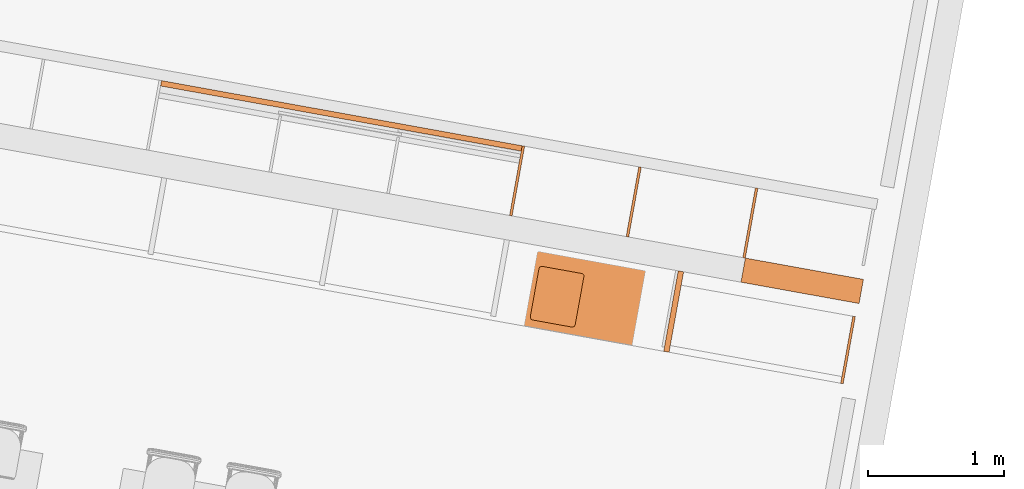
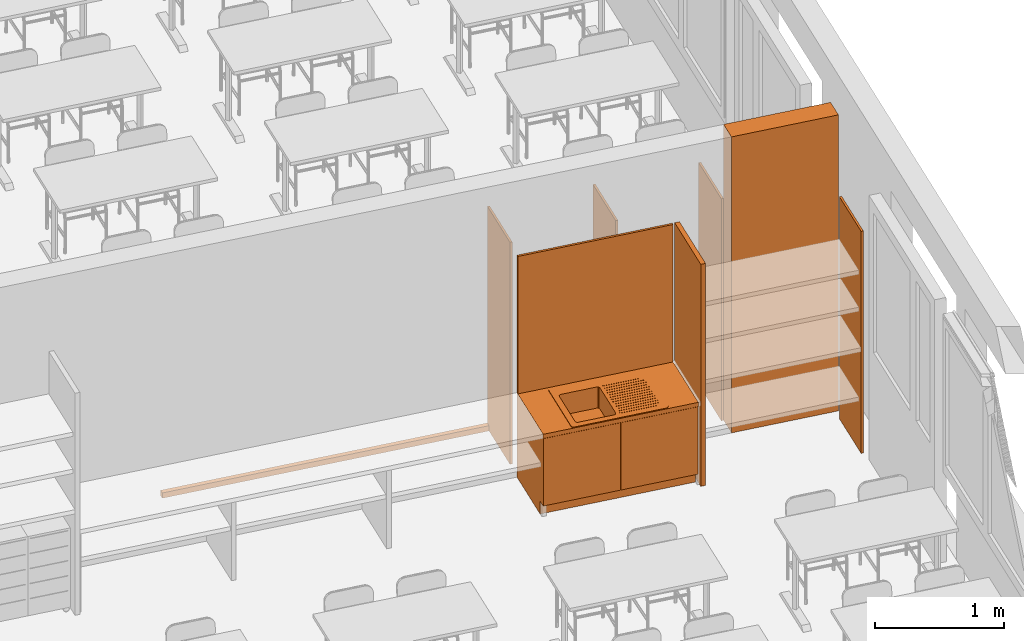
# One storey, part 27 of 79: 8 proxies.
"""IFC2X3 building model written with IfcOpenShell, lengths in metres."""

from ifc_helpers import new_model, entity, si_unit, converted_unit, derived_unit, money_unit, direction, frame, origin_with_axes, place, context, subcontext, project, spatial, polyline, outline, extrude, open_shell, faceted_brep, surface_model, source, transform, mapped, material, type_object, element, save


model = new_model("IFC2X3")

# Units and contexts
model_context = context("Model", 3, precision=1e-05, world=origin_with_axes(), true_north=direction((0.0, 1.0)))
body_context = subcontext(model_context, "Body", "Model", "MODEL_VIEW")
ifc_project = project(units=[si_unit("LENGTHUNIT", "METRE"), si_unit("AREAUNIT", "SQUARE_METRE"), si_unit("VOLUMEUNIT", "CUBIC_METRE"), converted_unit("PLANEANGLEUNIT", "DEGREE", entity("IfcPlaneAngleMeasure", 0.0174532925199), si_unit("PLANEANGLEUNIT", "RADIAN"), dimensions=[0, 0, 0, 0, 0, 0, 0]), money_unit("CHF"), converted_unit("TIMEUNIT", "Year", entity("IfcTimeMeasure", 31556926.0), si_unit("TIMEUNIT", "SECOND"), dimensions=[0, 0, 1, 0, 0, 0, 0]), si_unit("MASSUNIT", "GRAM", prefix="KILO"), si_unit("THERMODYNAMICTEMPERATUREUNIT", "DEGREE_CELSIUS"), si_unit("LUMINOUSINTENSITYUNIT", "LUMEN"), si_unit("ENERGYUNIT", "JOULE", prefix="MEGA"), derived_unit("THERMALCONDUCTANCEUNIT", [(si_unit("POWERUNIT", "WATT"), 1), (si_unit("LENGTHUNIT", "METRE"), -1), (si_unit("THERMODYNAMICTEMPERATUREUNIT", "KELVIN"), -1)]), derived_unit("SPECIFICHEATCAPACITYUNIT", [(si_unit("ENERGYUNIT", "JOULE"), 1), (si_unit("MASSUNIT", "GRAM", prefix="KILO"), -1), (si_unit("THERMODYNAMICTEMPERATUREUNIT", "KELVIN"), -1)]), derived_unit("MASSDENSITYUNIT", [(si_unit("MASSUNIT", "GRAM", prefix="KILO"), 1), (si_unit("VOLUMEUNIT", "CUBIC_METRE"), -1)])], contexts=[model_context])

# Site, building, storey
site_placement = place(None, frame((0.0, 0.0, 0.0), z_axis=(0.0, 0.0, 1.0), x_axis=(-0.177771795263, -0.984071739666, 0.0)))
site = spatial("IfcSite", under=ifc_project, at=site_placement, Name="Site", CompositionType="ELEMENT")
building_placement = place(site_placement, origin_with_axes())
building = spatial("IfcBuilding", under=site, at=building_placement, Name="Bâtiment", CompositionType="ELEMENT")
storey_placement = place(building_placement, origin_with_axes())
storey = spatial("IfcBuildingStorey", under=building, at=storey_placement, Name="RDC", CompositionType="ELEMENT", Elevation=0.0)

# Proxies
ifc_material_1 = material(Name="_panneau mélaminé")
building_element_proxy_type_1 = type_object("IfcBuildingElementProxyType", Name="_panneau mélaminé 40", PredefinedType="NOTDEFINED")
proxy_1_placement = place(storey_placement, frame((156.299841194, -149.826151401, 0.0), z_axis=(0.0, 0.0, 1.0), x_axis=(-1.0, 0.0, 0.0)))
element("IfcBuildingElementProxy", 1, at=proxy_1_placement, inside=storey, type_object=building_element_proxy_type_1, material=ifc_material_1, Name="cloison-fd-classe D", context=body_context, shape_type="SweptSolid", body=[
    extrude(outline(polyline([(0.0, -0.04), (0.600000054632, -0.04), (0.600000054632, 0.0), (0.0, 0.0), (0.0, -0.04)])), origin_with_axes(), (0.0, 0.0, 1.0), 2.1),
])
building_element_proxy_type_2 = type_object("IfcBuildingElementProxyType", Name="_panneau mélaminé 19", PredefinedType="NOTDEFINED")
proxy_2_placement = place(storey_placement, frame((155.519841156, -149.367651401, 0.0), z_axis=(0.0, 0.0, 1.0), x_axis=(-1.0, 0.0, 0.0)))
element("IfcBuildingElementProxy", 2, at=proxy_2_placement, inside=storey, type_object=building_element_proxy_type_2, material=ifc_material_1, Name="cloison pl-classe", context=body_context, shape_type="SweptSolid", body=[
    extrude(outline(polyline([(0.0, -0.0095), (0.520000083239, -0.0095), (0.520000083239, 0.0095), (0.0, 0.0095), (0.0, -0.0095)])), origin_with_axes(), (0.0, 0.0, 1.0), 2.1),
])
proxy_3_placement = place(storey_placement, frame((156.299841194, -148.506151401, 0.0), z_axis=(0.0, 0.0, 1.0), x_axis=(-1.0, 0.0, 0.0)))
element("IfcBuildingElementProxy", 3, at=proxy_3_placement, inside=storey, type_object=building_element_proxy_type_2, material=ifc_material_1, Name="cloison-fd-classe D", context=body_context, shape_type="SweptSolid", body=[
    extrude(outline(polyline([(0.0, -0.019), (0.500000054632, -0.019), (0.500000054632, 0.0), (0.0, 0.0), (0.0, -0.019)])), origin_with_axes(), (0.0, 0.0, 1.0), 2.1),
])
proxy_4_placement = place(storey_placement, frame((155.519841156, -150.237651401, 0.0), z_axis=(0.0, 0.0, 1.0), x_axis=(-1.0, 0.0, 0.0)))
element("IfcBuildingElementProxy", 4, at=proxy_4_placement, inside=storey, type_object=building_element_proxy_type_2, material=ifc_material_1, Name="cloison pl-classe", context=body_context, shape_type="SweptSolid", body=[
    extrude(outline(polyline([(0.0, -0.0095), (0.520000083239, -0.0095), (0.520000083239, 0.0095), (0.0, 0.0095), (0.0, -0.0095)])), origin_with_axes(), (0.0, 0.0, 1.0), 2.1),
])
proxy_5_placement = place(storey_placement, frame((155.51984114, -151.107651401, 0.0), z_axis=(0.0, 0.0, 1.0), x_axis=(-1.0, 0.0, 0.0)))
element("IfcBuildingElementProxy", 5, at=proxy_5_placement, inside=storey, type_object=building_element_proxy_type_2, material=ifc_material_1, Name="cloison pl-classe", context=body_context, shape_type="SweptSolid", body=[
    extrude(outline(polyline([(0.0, -0.0095), (0.520000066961, -0.0095), (0.520000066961, 0.0095), (0.0, 0.0095), (0.0, -0.0095)])), origin_with_axes(), (0.0, 0.0, 1.0), 2.1),
])
ifc_material_2 = material(Name="_BA banché RAL9007")
building_element_proxy_type_3 = type_object("IfcBuildingElementProxyType", Name="_M ext 18 +10 gris 280", PredefinedType="NOTDEFINED")
proxy_6_placement = place(storey_placement, frame((155.69984114, -149.358151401, 0.0), z_axis=(0.0, 0.0, 1.0), x_axis=(0.0, 1.0, 0.0)))
element("IfcBuildingElementProxy", 6, at=proxy_6_placement, inside=storey, type_object=building_element_proxy_type_3, material=ifc_material_2, Name="M retour_isol", context=body_context, shape_type="SweptSolid", body=[
    extrude(outline(polyline([(0.0, 0.0), (0.881001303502, 0.0), (0.881001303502, 0.18), (0.0, 0.18), (0.0, 0.0)])), origin_with_axes(), (0.0, 0.0, 1.0), 2.8),
])
ifc_material_3 = material(Name="Matériau de construction IFC")
building_element_proxy_type_4 = type_object("IfcBuildingElementProxyType", Name="Elément simple avec deux portes 21", PredefinedType="NOTDEFINED")
shared_shape = source(origin_with_axes(), body_context, "Body", "SurfaceModel", [
    surface_model("IfcShellBasedSurfaceModel", [(0.5, 0.600000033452, 0.733), (0.496505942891, 0.600000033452, 0.733460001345), (0.496505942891, 0.620000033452, 0.733460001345), (0.5, 0.620000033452, 0.733), (0.49325, 0.600000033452, 0.734808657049), (0.49325, 0.620000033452, 0.734808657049), (0.503494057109, 0.600000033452, 0.733460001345), (0.503494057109, 0.620000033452, 0.733460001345), (0.490454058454, 0.600000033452, 0.736954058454), (0.490454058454, 0.620000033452, 0.736954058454), (0.50675, 0.600000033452, 0.734808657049), (0.50675, 0.620000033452, 0.734808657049), (0.488308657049, 0.600000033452, 0.73975), (0.488308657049, 0.620000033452, 0.73975), (0.509545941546, 0.600000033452, 0.736954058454), (0.509545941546, 0.620000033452, 0.736954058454), (0.486960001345, 0.600000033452, 0.743005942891), (0.486960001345, 0.620000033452, 0.743005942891), (0.511691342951, 0.600000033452, 0.73975), (0.511691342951, 0.620000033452, 0.73975), (0.4865, 0.600000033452, 0.7465), (0.4865, 0.620000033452, 0.7465), (0.513039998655, 0.600000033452, 0.743005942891), (0.513039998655, 0.620000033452, 0.743005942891), (0.486960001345, 0.600000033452, 0.749994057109), (0.486960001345, 0.620000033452, 0.749994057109), (0.5135, 0.600000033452, 0.7465), (0.5135, 0.620000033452, 0.7465), (0.488308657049, 0.600000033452, 0.75325), (0.488308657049, 0.620000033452, 0.75325), (0.513039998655, 0.600000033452, 0.749994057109), (0.513039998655, 0.620000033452, 0.749994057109), (0.490454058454, 0.600000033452, 0.756045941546), (0.490454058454, 0.620000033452, 0.756045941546), (0.511691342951, 0.600000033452, 0.75325), (0.511691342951, 0.620000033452, 0.75325), (0.49325, 0.600000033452, 0.758191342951), (0.49325, 0.620000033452, 0.758191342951), (0.509545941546, 0.600000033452, 0.756045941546), (0.509545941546, 0.620000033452, 0.756045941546), (0.496505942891, 0.600000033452, 0.759539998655), (0.496505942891, 0.620000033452, 0.759539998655), (0.50675, 0.600000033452, 0.758191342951), (0.50675, 0.620000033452, 0.758191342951), (0.5, 0.600000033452, 0.76), (0.5, 0.620000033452, 0.76), (0.503494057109, 0.600000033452, 0.759539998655), (0.503494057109, 0.620000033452, 0.759539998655)], [open_shell([[[0, 1, 2, 3]], [[1, 4, 5, 2]], [[6, 0, 3, 7]], [[4, 8, 9, 5]], [[10, 6, 7, 11]], [[8, 12, 13, 9]], [[14, 10, 11, 15]], [[12, 16, 17, 13]], [[18, 14, 15, 19]], [[16, 20, 21, 17]], [[22, 18, 19, 23]], [[20, 24, 25, 21]], [[26, 22, 23, 27]], [[24, 28, 29, 25]], [[30, 26, 27, 31]], [[28, 32, 33, 29]], [[34, 30, 31, 35]], [[32, 36, 37, 33]], [[38, 34, 35, 39]], [[36, 40, 41, 37]], [[42, 38, 39, 43]], [[40, 44, 45, 41]], [[46, 42, 43, 47]], [[44, 46, 47, 45]]])]),
    surface_model("IfcShellBasedSurfaceModel", [(0.7, 0.600000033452, 0.733), (0.696505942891, 0.600000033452, 0.733460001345), (0.696505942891, 0.620000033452, 0.733460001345), (0.7, 0.620000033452, 0.733), (0.69325, 0.600000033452, 0.734808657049), (0.69325, 0.620000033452, 0.734808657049), (0.703494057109, 0.600000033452, 0.733460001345), (0.703494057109, 0.620000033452, 0.733460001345), (0.690454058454, 0.600000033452, 0.736954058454), (0.690454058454, 0.620000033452, 0.736954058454), (0.70675, 0.600000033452, 0.734808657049), (0.70675, 0.620000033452, 0.734808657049), (0.688308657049, 0.600000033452, 0.73975), (0.688308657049, 0.620000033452, 0.73975), (0.709545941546, 0.600000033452, 0.736954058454), (0.709545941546, 0.620000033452, 0.736954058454), (0.686960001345, 0.600000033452, 0.743005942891), (0.686960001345, 0.620000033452, 0.743005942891), (0.711691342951, 0.600000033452, 0.73975), (0.711691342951, 0.620000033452, 0.73975), (0.6865, 0.600000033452, 0.7465), (0.6865, 0.620000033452, 0.7465), (0.713039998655, 0.600000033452, 0.743005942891), (0.713039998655, 0.620000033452, 0.743005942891), (0.686960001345, 0.600000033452, 0.749994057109), (0.686960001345, 0.620000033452, 0.749994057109), (0.7135, 0.600000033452, 0.7465), (0.7135, 0.620000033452, 0.7465), (0.688308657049, 0.600000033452, 0.75325), (0.688308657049, 0.620000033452, 0.75325), (0.713039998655, 0.600000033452, 0.749994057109), (0.713039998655, 0.620000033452, 0.749994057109), (0.690454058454, 0.600000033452, 0.756045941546), (0.690454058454, 0.620000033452, 0.756045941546), (0.711691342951, 0.600000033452, 0.75325), (0.711691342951, 0.620000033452, 0.75325), (0.69325, 0.600000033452, 0.758191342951), (0.69325, 0.620000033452, 0.758191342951), (0.709545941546, 0.600000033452, 0.756045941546), (0.709545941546, 0.620000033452, 0.756045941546), (0.696505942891, 0.600000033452, 0.759539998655), (0.696505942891, 0.620000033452, 0.759539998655), (0.70675, 0.600000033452, 0.758191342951), (0.70675, 0.620000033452, 0.758191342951), (0.7, 0.600000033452, 0.76), (0.7, 0.620000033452, 0.76), (0.703494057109, 0.600000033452, 0.759539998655), (0.703494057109, 0.620000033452, 0.759539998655)], [open_shell([[[0, 1, 2, 3]], [[1, 4, 5, 2]], [[6, 0, 3, 7]], [[4, 8, 9, 5]], [[10, 6, 7, 11]], [[8, 12, 13, 9]], [[14, 10, 11, 15]], [[12, 16, 17, 13]], [[18, 14, 15, 19]], [[16, 20, 21, 17]], [[22, 18, 19, 23]], [[20, 24, 25, 21]], [[26, 22, 23, 27]], [[24, 28, 29, 25]], [[30, 26, 27, 31]], [[28, 32, 33, 29]], [[34, 30, 31, 35]], [[32, 36, 37, 33]], [[38, 34, 35, 39]], [[36, 40, 41, 37]], [[42, 38, 39, 43]], [[40, 44, 45, 41]], [[46, 42, 43, 47]], [[44, 46, 47, 45]]])]),
    surface_model("IfcShellBasedSurfaceModel", [(0.6, 0.600000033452, 0.579), (0.594564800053, 0.600000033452, 0.579715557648), (0.594564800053, 0.620000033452, 0.579715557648), (0.6, 0.620000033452, 0.579), (0.5895, 0.600000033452, 0.581813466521), (0.5895, 0.620000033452, 0.581813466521), (0.605435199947, 0.600000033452, 0.579715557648), (0.605435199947, 0.620000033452, 0.579715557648), (0.585150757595, 0.600000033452, 0.585150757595), (0.585150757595, 0.620000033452, 0.585150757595), (0.6105, 0.600000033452, 0.581813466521), (0.6105, 0.620000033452, 0.581813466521), (0.581813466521, 0.600000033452, 0.5895), (0.581813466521, 0.620000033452, 0.5895), (0.614849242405, 0.600000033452, 0.585150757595), (0.614849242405, 0.620000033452, 0.585150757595), (0.579715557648, 0.600000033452, 0.594564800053), (0.579715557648, 0.620000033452, 0.594564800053), (0.618186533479, 0.600000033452, 0.5895), (0.618186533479, 0.620000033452, 0.5895), (0.579, 0.600000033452, 0.6), (0.579, 0.620000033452, 0.6), (0.620284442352, 0.600000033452, 0.594564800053), (0.620284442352, 0.620000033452, 0.594564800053), (0.579715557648, 0.600000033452, 0.605435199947), (0.579715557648, 0.620000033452, 0.605435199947), (0.621, 0.600000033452, 0.6), (0.621, 0.620000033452, 0.6), (0.581813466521, 0.600000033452, 0.6105), (0.581813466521, 0.620000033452, 0.6105), (0.620284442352, 0.600000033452, 0.605435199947), (0.620284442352, 0.620000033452, 0.605435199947), (0.585150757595, 0.600000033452, 0.614849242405), (0.585150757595, 0.620000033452, 0.614849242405), (0.618186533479, 0.600000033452, 0.6105), (0.618186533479, 0.620000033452, 0.6105), (0.5895, 0.600000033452, 0.618186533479), (0.5895, 0.620000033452, 0.618186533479), (0.614849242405, 0.600000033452, 0.614849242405), (0.614849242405, 0.620000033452, 0.614849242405), (0.594564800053, 0.600000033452, 0.620284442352), (0.594564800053, 0.620000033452, 0.620284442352), (0.6105, 0.600000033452, 0.618186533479), (0.6105, 0.620000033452, 0.618186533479), (0.6, 0.600000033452, 0.621), (0.6, 0.620000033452, 0.621), (0.605435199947, 0.600000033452, 0.620284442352), (0.605435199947, 0.620000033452, 0.620284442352)], [open_shell([[[0, 1, 2, 3]], [[1, 4, 5, 2]], [[6, 0, 3, 7]], [[4, 8, 9, 5]], [[10, 6, 7, 11]], [[8, 12, 13, 9]], [[14, 10, 11, 15]], [[12, 16, 17, 13]], [[18, 14, 15, 19]], [[16, 20, 21, 17]], [[22, 18, 19, 23]], [[20, 24, 25, 21]], [[26, 22, 23, 27]], [[24, 28, 29, 25]], [[30, 26, 27, 31]], [[28, 32, 33, 29]], [[34, 30, 31, 35]], [[32, 36, 37, 33]], [[38, 34, 35, 39]], [[36, 40, 41, 37]], [[42, 38, 39, 43]], [[40, 44, 45, 41]], [[46, 42, 43, 47]], [[44, 46, 47, 45]]])]),
    faceted_brep([(0.0, 0.07, 0.0), (1.278, 0.07, 0.0), (1.278, 0.07, 0.12), (0.0, 0.07, 0.12), (0.0, 0.600000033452, 0.0), (1.278, 0.600000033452, 0.0), (1.278, 0.600000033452, 0.12), (0.0, 0.600000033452, 0.12)], [[[0, 1, 2, 3]], [[0, 4, 5, 1]], [[1, 5, 6, 2]], [[3, 2, 6, 7]], [[4, 0, 3, 7]], [[5, 4, 7, 6]]]),
    faceted_brep([(0.0, 0.02, 0.12), (0.02, 0.02, 0.12), (0.02, 0.02, 0.14), (0.0, 0.02, 0.14), (0.0, 0.600000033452, 0.12), (0.02, 0.600000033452, 0.12), (1.258, 0.600000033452, 0.12), (1.278, 0.600000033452, 0.12), (1.278, 0.02, 0.12), (1.258, 0.02, 0.12), (1.258, 0.02, 0.14), (1.278, 0.02, 0.14), (1.278, 0.600000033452, 0.14), (1.258, 0.600000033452, 0.14), (0.02, 0.600000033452, 0.14), (0.0, 0.600000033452, 0.14)], [[[0, 1, 2, 3]], [[0, 4, 5, 6, 7, 8, 9, 1]], [[1, 9, 10, 2]], [[3, 2, 10, 11, 12, 13, 14, 15]], [[4, 0, 3, 15]], [[5, 4, 15, 14]], [[6, 5, 14, 13]], [[7, 6, 13, 12]], [[8, 7, 12, 11]], [[9, 8, 11, 10]]]),
    faceted_brep([(0.0, 0.02, 0.14), (0.02, 0.02, 0.14), (0.02, 0.02, 0.76), (0.0, 0.02, 0.76), (0.0, 0.600000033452, 0.14), (1.278, 0.600000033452, 0.14), (1.278, 0.02, 0.14), (1.258, 0.02, 0.14), (1.258, 0.580000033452, 0.14), (0.02, 0.580000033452, 0.14), (0.02, 0.580000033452, 0.76), (1.258, 0.580000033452, 0.76), (1.258, 0.02, 0.76), (1.278, 0.02, 0.76), (1.278, 0.600000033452, 0.76), (0.0, 0.600000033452, 0.76)], [[[0, 1, 2, 3]], [[0, 4, 5, 6, 7, 8, 9, 1]], [[1, 9, 10, 2]], [[3, 2, 10, 11, 12, 13, 14, 15]], [[4, 0, 3, 15]], [[5, 4, 15, 14]], [[6, 5, 14, 13]], [[7, 6, 13, 12]], [[8, 7, 12, 11]], [[9, 8, 11, 10]]]),
    faceted_brep([(1.258, 0.02, 0.41), (1.258, 0.580000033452, 0.41), (1.258, 0.580000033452, 0.43), (1.258, 0.02, 0.43), (0.02, 0.02, 0.41), (0.02, 0.580000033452, 0.41), (0.02, 0.580000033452, 0.43), (0.02, 0.02, 0.43)], [[[0, 1, 2, 3]], [[0, 4, 5, 1]], [[1, 5, 6, 2]], [[3, 2, 6, 7]], [[4, 0, 3, 7]], [[5, 4, 7, 6]]]),
    surface_model("IfcShellBasedSurfaceModel", [(0.309, 0.0550000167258, 0.605), (0.604, 0.0550000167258, 0.605), (0.604, 0.0550000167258, 0.8), (0.309, 0.0550000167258, 0.8), (0.299, 0.0576795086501, 0.605), (0.291679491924, 0.0650000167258, 0.605), (0.289, 0.0750000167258, 0.605), (0.289, 0.435000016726, 0.605), (0.291679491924, 0.445000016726, 0.605), (0.299, 0.452320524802, 0.605), (0.309, 0.455000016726, 0.605), (0.604, 0.455000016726, 0.605), (0.614, 0.452320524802, 0.605), (0.621320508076, 0.445000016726, 0.605), (0.624, 0.435000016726, 0.605), (0.624, 0.0750000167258, 0.605), (0.618142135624, 0.0608578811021, 0.605), (0.618142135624, 0.0608578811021, 0.8), (0.299, 0.0576795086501, 0.8), (0.291679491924, 0.0650000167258, 0.8), (0.289, 0.0750000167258, 0.8), (0.289, 0.435000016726, 0.8), (0.291679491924, 0.445000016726, 0.8), (0.299, 0.452320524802, 0.8), (0.309, 0.455000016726, 0.8), (0.604, 0.455000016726, 0.8), (0.614, 0.452320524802, 0.8), (0.621320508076, 0.445000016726, 0.8), (0.624, 0.435000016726, 0.8), (0.624, 0.0750000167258, 0.8)], [open_shell([[[0, 1, 2, 3]], [[0, 4, 5, 6, 7, 8, 9, 10, 11, 12, 13, 14, 15, 16, 1]], [[1, 16, 17, 2]], [[4, 0, 3, 18]], [[5, 4, 18, 19]], [[6, 5, 19, 20]], [[7, 6, 20, 21]], [[8, 7, 21, 22]], [[9, 8, 22, 23]], [[10, 9, 23, 24]], [[11, 10, 24, 25]], [[12, 11, 25, 26]], [[13, 12, 26, 27]], [[14, 13, 27, 28]], [[15, 14, 28, 29]], [[16, 15, 29, 17]]])]),
    faceted_brep([(0.259, 0.00500001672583, 0.8), (1.019, 0.00500001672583, 0.8), (1.019, 0.00500001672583, 0.805), (0.259, 0.00500001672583, 0.805), (0.249, 0.00767950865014, 0.8), (0.241679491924, 0.0150000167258, 0.8), (0.239, 0.0250000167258, 0.8), (0.239, 0.535000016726, 0.8), (0.241679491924, 0.545000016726, 0.8), (0.249, 0.552320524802, 0.8), (0.259, 0.555000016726, 0.8), (1.019, 0.555000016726, 0.8), (1.029, 0.552320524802, 0.8), (1.03632050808, 0.545000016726, 0.8), (1.039, 0.535000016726, 0.8), (1.039, 0.0250000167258, 0.8), (1.03314213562, 0.0108578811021, 0.8), (0.309, 0.0550000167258, 0.8), (0.604, 0.0550000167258, 0.8), (0.618142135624, 0.0608578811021, 0.8), (0.624, 0.0750000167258, 0.8), (0.624, 0.435000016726, 0.8), (0.621320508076, 0.445000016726, 0.8), (0.614, 0.452320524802, 0.8), (0.604, 0.455000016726, 0.8), (0.309, 0.455000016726, 0.8), (0.299, 0.452320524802, 0.8), (0.291679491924, 0.445000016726, 0.8), (0.289, 0.435000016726, 0.8), (0.289, 0.0750000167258, 0.8), (0.291679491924, 0.0650000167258, 0.8), (0.299, 0.0576795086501, 0.8), (1.03314213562, 0.0108578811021, 0.805), (1.039, 0.0250000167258, 0.805), (1.039, 0.535000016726, 0.805), (1.03632050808, 0.545000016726, 0.805), (1.029, 0.552320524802, 0.805), (1.019, 0.555000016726, 0.805), (0.259, 0.555000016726, 0.805), (0.249, 0.552320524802, 0.805), (0.241679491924, 0.545000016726, 0.805), (0.239, 0.535000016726, 0.805), (0.239, 0.0250000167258, 0.805), (0.241679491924, 0.0150000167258, 0.805), (0.249, 0.00767950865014, 0.805), (0.309, 0.0550000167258, 0.805), (0.299, 0.0576795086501, 0.805), (0.291679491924, 0.0650000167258, 0.805), (0.289, 0.0750000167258, 0.805), (0.289, 0.435000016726, 0.805), (0.291679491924, 0.445000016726, 0.805), (0.299, 0.452320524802, 0.805), (0.309, 0.455000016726, 0.805), (0.604, 0.455000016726, 0.805), (0.614, 0.452320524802, 0.805), (0.621320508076, 0.445000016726, 0.805), (0.624, 0.435000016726, 0.805), (0.624, 0.0750000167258, 0.805), (0.618142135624, 0.0608578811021, 0.805), (0.604, 0.0550000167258, 0.805)], [[[0, 1, 2, 3]], [[0, 4, 5, 6, 7, 8, 9, 10, 11, 12, 13, 14, 15, 16, 1], [17, 18, 19, 20, 21, 22, 23, 24, 25, 26, 27, 28, 29, 30, 31]], [[1, 16, 32, 2]], [[3, 2, 32, 33, 34, 35, 36, 37, 38, 39, 40, 41, 42, 43, 44], [45, 46, 47, 48, 49, 50, 51, 52, 53, 54, 55, 56, 57, 58, 59]], [[4, 0, 3, 44]], [[5, 4, 44, 43]], [[6, 5, 43, 42]], [[7, 6, 42, 41]], [[8, 7, 41, 40]], [[9, 8, 40, 39]], [[10, 9, 39, 38]], [[11, 10, 38, 37]], [[12, 11, 37, 36]], [[13, 12, 36, 35]], [[14, 13, 35, 34]], [[15, 14, 34, 33]], [[16, 15, 33, 32]], [[18, 17, 45, 59]], [[19, 18, 59, 58]], [[20, 19, 58, 57]], [[21, 20, 57, 56]], [[22, 21, 56, 55]], [[23, 22, 55, 54]], [[24, 23, 54, 53]], [[25, 24, 53, 52]], [[26, 25, 52, 51]], [[27, 26, 51, 50]], [[28, 27, 50, 49]], [[29, 28, 49, 48]], [[30, 29, 48, 47]], [[31, 30, 47, 46]], [[17, 31, 46, 45]]]),
    faceted_brep([(0.654, 0.0600000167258, 0.805), (0.959, 0.0600000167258, 0.805), (0.959, 0.0600000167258, 0.807), (0.654, 0.0600000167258, 0.807), (0.654, 0.0650000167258, 0.805), (0.959, 0.0650000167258, 0.805), (0.959, 0.0650000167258, 0.807), (0.654, 0.0650000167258, 0.807)], [[[0, 1, 2, 3]], [[0, 4, 5, 1]], [[1, 5, 6, 2]], [[3, 2, 6, 7]], [[4, 0, 3, 7]], [[5, 4, 7, 6]]]),
    faceted_brep([(0.654, 0.0925000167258, 0.805), (0.989, 0.0925000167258, 0.805), (0.989, 0.0925000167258, 0.807), (0.654, 0.0925000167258, 0.807), (0.654, 0.0975000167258, 0.805), (0.989, 0.0975000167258, 0.805), (0.989, 0.0975000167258, 0.807), (0.654, 0.0975000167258, 0.807)], [[[0, 1, 2, 3]], [[0, 4, 5, 1]], [[1, 5, 6, 2]], [[3, 2, 6, 7]], [[4, 0, 3, 7]], [[5, 4, 7, 6]]]),
    faceted_brep([(0.654, 0.125000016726, 0.805), (0.989, 0.125000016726, 0.805), (0.989, 0.125000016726, 0.807), (0.654, 0.125000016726, 0.807), (0.654, 0.130000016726, 0.805), (0.989, 0.130000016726, 0.805), (0.989, 0.130000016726, 0.807), (0.654, 0.130000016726, 0.807)], [[[0, 1, 2, 3]], [[0, 4, 5, 1]], [[1, 5, 6, 2]], [[3, 2, 6, 7]], [[4, 0, 3, 7]], [[5, 4, 7, 6]]]),
    faceted_brep([(0.654, 0.157500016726, 0.805), (0.989, 0.157500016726, 0.805), (0.989, 0.157500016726, 0.807), (0.654, 0.157500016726, 0.807), (0.654, 0.162500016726, 0.805), (0.989, 0.162500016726, 0.805), (0.989, 0.162500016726, 0.807), (0.654, 0.162500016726, 0.807)], [[[0, 1, 2, 3]], [[0, 4, 5, 1]], [[1, 5, 6, 2]], [[3, 2, 6, 7]], [[4, 0, 3, 7]], [[5, 4, 7, 6]]]),
    faceted_brep([(0.654, 0.190000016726, 0.805), (0.989, 0.190000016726, 0.805), (0.989, 0.190000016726, 0.807), (0.654, 0.190000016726, 0.807), (0.654, 0.195000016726, 0.805), (0.989, 0.195000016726, 0.805), (0.989, 0.195000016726, 0.807), (0.654, 0.195000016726, 0.807)], [[[0, 1, 2, 3]], [[0, 4, 5, 1]], [[1, 5, 6, 2]], [[3, 2, 6, 7]], [[4, 0, 3, 7]], [[5, 4, 7, 6]]]),
    faceted_brep([(0.654, 0.222500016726, 0.805), (0.989, 0.222500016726, 0.805), (0.989, 0.222500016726, 0.807), (0.654, 0.222500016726, 0.807), (0.654, 0.227500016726, 0.805), (0.989, 0.227500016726, 0.805), (0.989, 0.227500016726, 0.807), (0.654, 0.227500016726, 0.807)], [[[0, 1, 2, 3]], [[0, 4, 5, 1]], [[1, 5, 6, 2]], [[3, 2, 6, 7]], [[4, 0, 3, 7]], [[5, 4, 7, 6]]]),
    faceted_brep([(0.654, 0.255000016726, 0.805), (0.989, 0.255000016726, 0.805), (0.989, 0.255000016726, 0.807), (0.654, 0.255000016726, 0.807), (0.654, 0.260000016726, 0.805), (0.989, 0.260000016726, 0.805), (0.989, 0.260000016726, 0.807), (0.654, 0.260000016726, 0.807)], [[[0, 1, 2, 3]], [[0, 4, 5, 1]], [[1, 5, 6, 2]], [[3, 2, 6, 7]], [[4, 0, 3, 7]], [[5, 4, 7, 6]]]),
    faceted_brep([(0.654, 0.287500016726, 0.805), (0.989, 0.287500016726, 0.805), (0.989, 0.287500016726, 0.807), (0.654, 0.287500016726, 0.807), (0.654, 0.292500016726, 0.805), (0.989, 0.292500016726, 0.805), (0.989, 0.292500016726, 0.807), (0.654, 0.292500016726, 0.807)], [[[0, 1, 2, 3]], [[0, 4, 5, 1]], [[1, 5, 6, 2]], [[3, 2, 6, 7]], [[4, 0, 3, 7]], [[5, 4, 7, 6]]]),
    faceted_brep([(0.654, 0.320000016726, 0.805), (0.989, 0.320000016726, 0.805), (0.989, 0.320000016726, 0.807), (0.654, 0.320000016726, 0.807), (0.654, 0.325000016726, 0.805), (0.989, 0.325000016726, 0.805), (0.989, 0.325000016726, 0.807), (0.654, 0.325000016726, 0.807)], [[[0, 1, 2, 3]], [[0, 4, 5, 1]], [[1, 5, 6, 2]], [[3, 2, 6, 7]], [[4, 0, 3, 7]], [[5, 4, 7, 6]]]),
    faceted_brep([(0.654, 0.352500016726, 0.805), (0.989, 0.352500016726, 0.805), (0.989, 0.352500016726, 0.807), (0.654, 0.352500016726, 0.807), (0.654, 0.357500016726, 0.805), (0.989, 0.357500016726, 0.805), (0.989, 0.357500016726, 0.807), (0.654, 0.357500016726, 0.807)], [[[0, 1, 2, 3]], [[0, 4, 5, 1]], [[1, 5, 6, 2]], [[3, 2, 6, 7]], [[4, 0, 3, 7]], [[5, 4, 7, 6]]]),
    faceted_brep([(0.654, 0.385000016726, 0.805), (0.989, 0.385000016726, 0.805), (0.989, 0.385000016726, 0.807), (0.654, 0.385000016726, 0.807), (0.654, 0.390000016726, 0.805), (0.989, 0.390000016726, 0.805), (0.989, 0.390000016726, 0.807), (0.654, 0.390000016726, 0.807)], [[[0, 1, 2, 3]], [[0, 4, 5, 1]], [[1, 5, 6, 2]], [[3, 2, 6, 7]], [[4, 0, 3, 7]], [[5, 4, 7, 6]]]),
    faceted_brep([(0.654, 0.417500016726, 0.805), (0.989, 0.417500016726, 0.805), (0.989, 0.417500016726, 0.807), (0.654, 0.417500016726, 0.807), (0.654, 0.422500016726, 0.805), (0.989, 0.422500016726, 0.805), (0.989, 0.422500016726, 0.807), (0.654, 0.422500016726, 0.807)], [[[0, 1, 2, 3]], [[0, 4, 5, 1]], [[1, 5, 6, 2]], [[3, 2, 6, 7]], [[4, 0, 3, 7]], [[5, 4, 7, 6]]]),
    faceted_brep([(0.654, 0.450000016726, 0.805), (0.959, 0.450000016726, 0.805), (0.959, 0.450000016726, 0.807), (0.654, 0.450000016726, 0.807), (0.654, 0.455000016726, 0.805), (0.959, 0.455000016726, 0.805), (0.959, 0.455000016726, 0.807), (0.654, 0.455000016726, 0.807)], [[[0, 1, 2, 3]], [[0, 4, 5, 1]], [[1, 5, 6, 2]], [[3, 2, 6, 7]], [[4, 0, 3, 7]], [[5, 4, 7, 6]]]),
    faceted_brep([(0.0, 0.0, 0.76), (1.278, 0.0, 0.76), (1.278, 0.0, 0.8), (0.0, 0.0, 0.8), (0.0, 0.600000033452, 0.76), (1.278, 0.600000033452, 0.76), (0.264, 0.0500000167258, 0.76), (1.014, 0.0500000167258, 0.76), (1.014, 0.535000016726, 0.76), (0.264, 0.535000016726, 0.76), (1.278, 0.600000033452, 0.8), (0.0, 0.600000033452, 0.8), (0.264, 0.0500000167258, 0.8), (0.264, 0.535000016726, 0.8), (1.014, 0.535000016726, 0.8), (1.014, 0.0500000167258, 0.8)], [[[0, 1, 2, 3]], [[0, 4, 5, 1], [6, 7, 8, 9]], [[1, 5, 10, 2]], [[3, 2, 10, 11], [12, 13, 14, 15]], [[4, 0, 3, 11]], [[5, 4, 11, 10]], [[7, 6, 12, 15]], [[8, 7, 15, 14]], [[9, 8, 14, 13]], [[6, 9, 13, 12]]]),
    faceted_brep([(0.0, 0.580000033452, 0.8), (1.278, 0.580000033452, 0.8), (1.278, 0.580000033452, 2.1), (0.0, 0.580000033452, 2.1), (0.0, 0.600000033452, 0.8), (1.278, 0.600000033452, 0.8), (1.278, 0.600000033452, 2.1), (0.0, 0.600000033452, 2.1)], [[[0, 1, 2, 3]], [[0, 4, 5, 1]], [[1, 5, 6, 2]], [[3, 2, 6, 7]], [[4, 0, 3, 7]], [[5, 4, 7, 6]]]),
    faceted_brep([(0.0015, 0.02, 0.1215), (0.6375, 0.02, 0.1215), (0.6375, 0.0, 0.1215), (0.0015, 0.0, 0.1215), (0.0015, 0.02, 0.7585), (0.6375, 0.02, 0.7585), (0.6375, 0.0, 0.7585), (0.0015, 0.0, 0.7585)], [[[0, 1, 2, 3]], [[0, 4, 5, 1]], [[1, 5, 6, 2]], [[3, 2, 6, 7]], [[4, 0, 3, 7]], [[5, 4, 7, 6]]]),
    faceted_brep([(1.2765, 0.02, 0.1215), (1.2765, 0.0, 0.1215), (0.6405, 0.0, 0.1215), (0.6405, 0.02, 0.1215), (1.2765, 0.02, 0.7585), (1.2765, 0.0, 0.7585), (0.6405, 0.0, 0.7585), (0.6405, 0.02, 0.7585)], [[[0, 1, 2, 3]], [[4, 5, 1, 0]], [[1, 5, 6, 2]], [[3, 2, 6, 7]], [[0, 3, 7, 4]], [[7, 6, 5, 4]]]),
])
proxy_7_placement = place(storey_placement, frame((156.299841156, -151.124151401, 0.0), z_axis=(0.0, 0.0, 1.0), x_axis=(0.0, 1.0, 0.0)))
element("IfcBuildingElementProxy", 7, at=proxy_7_placement, inside=storey, type_object=building_element_proxy_type_4, material=ifc_material_3, Name="evier-classe", context=body_context, shape_type="MappedRepresentation", body=[
    mapped(shared_shape, transform((0.0, 0.0, 0.0))),
])
ifc_material_4 = material(Name="_Bois contreplaqué")
building_element_proxy_type_5 = type_object("IfcBuildingElementProxyType", Name="_Bois contreplaqué 50", PredefinedType="NOTDEFINED")
proxy_8_placement = place(storey_placement, frame((154.999841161, -153.807151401, 0.05), z_axis=(0.0, 0.0, 1.0), x_axis=(1.0, 0.0, 0.0)))
element("IfcBuildingElementProxy", 8, at=proxy_8_placement, inside=storey, type_object=building_element_proxy_type_5, material=ifc_material_4, Name="socle-tableau", context=body_context, shape_type="SweptSolid", body=[
    extrude(outline(polyline([(0.0, 0.0), (0.0399999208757, 0.0), (0.0399999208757, 2.69), (0.0, 2.69), (0.0, 0.0)])), frame((0.0, 0.0, -0.05), z_axis=(0.0, 0.0, 1.0), x_axis=(1.0, 0.0, 0.0)), (0.0, 0.0, 1.0), 0.05),
])

save(model, "model.ifc")
